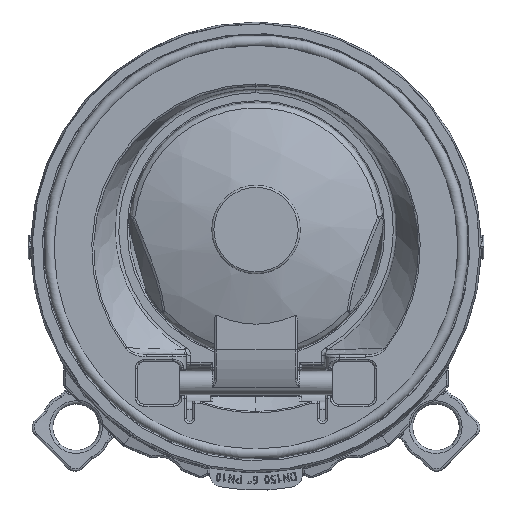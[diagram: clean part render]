
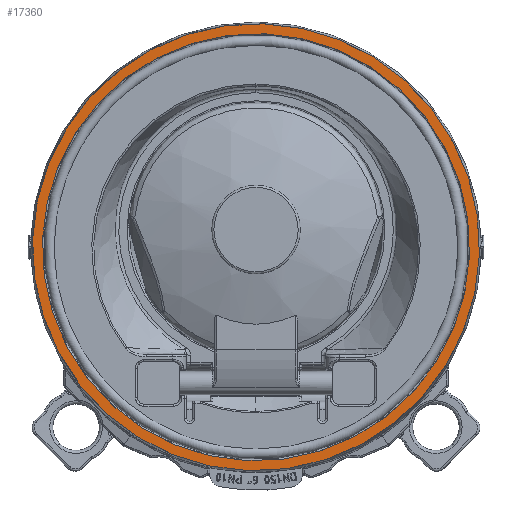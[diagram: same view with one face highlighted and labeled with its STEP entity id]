
A CAD part, top view. The second image highlights one B-rep face of the part: STEP entity #17360.
In plain terms, the highlighted planar face has unit normal (0, 0, 1).
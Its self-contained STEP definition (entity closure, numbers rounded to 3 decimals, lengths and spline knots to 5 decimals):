
#239=PLANE('',#18674);
#3996=FACE_BOUND('',#5605,.T.);
#4483=FACE_OUTER_BOUND('',#5604,.T.);
#5604=EDGE_LOOP('',(#13655));
#5605=EDGE_LOOP('',(#13656));
#6252=CIRCLE('',#17991,0.1057);
#6419=CIRCLE('',#18273,0.101);
#6920=VERTEX_POINT('',#23272);
#7225=VERTEX_POINT('',#24768);
#8611=EDGE_CURVE('',#6920,#6920,#6252,.T.);
#8990=EDGE_CURVE('',#7225,#7225,#6419,.T.);
#13655=ORIENTED_EDGE('',*,*,#8611,.F.);
#13656=ORIENTED_EDGE('',*,*,#8990,.F.);
#17360=ADVANCED_FACE('',(#4483,#3996),#239,.T.);
#17991=AXIS2_PLACEMENT_3D('',#23273,#19429,#19430);
#18273=AXIS2_PLACEMENT_3D('',#24769,#20145,#20146);
#18674=AXIS2_PLACEMENT_3D('',#32703,#21559,#21560);
#19429=DIRECTION('center_axis',(0.,0.,
-1.));
#19430=DIRECTION('ref_axis',(-1.,0.,0.));
#20145=DIRECTION('center_axis',(0.,0.,
1.));
#20146=DIRECTION('ref_axis',(-1.,0.001,0.));
#21559=DIRECTION('center_axis',(0.,0.,
1.));
#21560=DIRECTION('ref_axis',(1.,-0.001,0.));
#23272=CARTESIAN_POINT('',(-0.02187,-0.10341,0.01522));
#23273=CARTESIAN_POINT('Origin',(0.,0.,
0.01522));
#24768=CARTESIAN_POINT('',(0.01332,-0.10012,0.01522));
#24769=CARTESIAN_POINT('Origin',(0.,0.,
0.01522));
#32703=CARTESIAN_POINT('Origin',(0.,0.,
0.01522));
